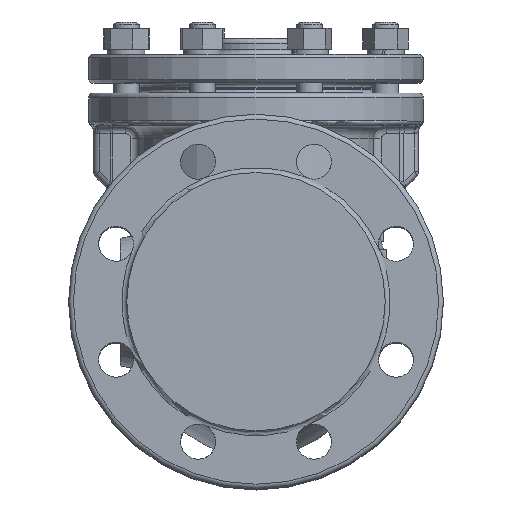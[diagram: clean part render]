
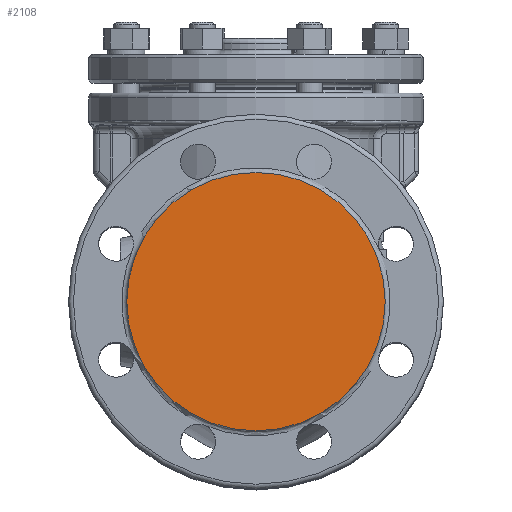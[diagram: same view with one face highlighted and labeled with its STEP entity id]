
A CAD part, top view. The second image highlights one B-rep face of the part: STEP entity #2108.
In plain terms, the highlighted planar face has unit normal (0, 0, 1).
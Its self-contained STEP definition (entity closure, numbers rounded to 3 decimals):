
#865=FACE_OUTER_BOUND('',#3135,.T.);
#2108=ADVANCED_FACE('',(#865),#2657,.F.);
#2657=PLANE('',#8947);
#3135=EDGE_LOOP('',(#4053));
#4053=ORIENTED_EDGE('',*,*,#7306,.F.);
#6497=VERTEX_POINT('',#27750);
#7306=EDGE_CURVE('',#6497,#6497,#8410,.T.);
#8410=CIRCLE('',#8946,81.);
#8946=AXIS2_PLACEMENT_3D('',#27749,#10014,#10015);
#8947=AXIS2_PLACEMENT_3D('',#27751,#10016,#10017);
#10014=DIRECTION('',(0.,0.,-1.));
#10015=DIRECTION('',(-1.,0.,0.));
#10016=DIRECTION('',(0.,0.,-1.));
#10017=DIRECTION('',(-1.,0.,0.));
#27749=CARTESIAN_POINT('',(0.,-1.,175.));
#27750=CARTESIAN_POINT('',(-81.,-1.,175.));
#27751=CARTESIAN_POINT('',(0.,-1.,175.));
